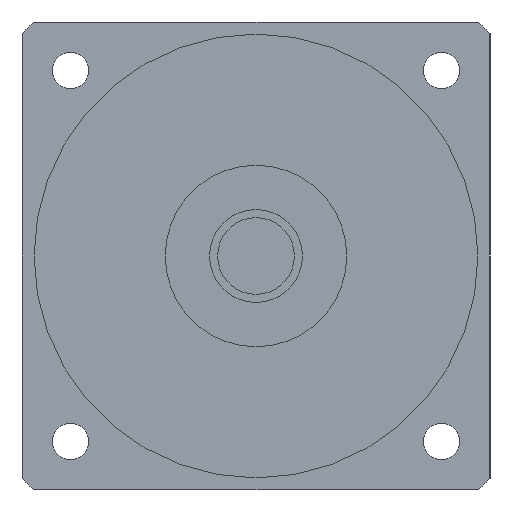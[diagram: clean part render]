
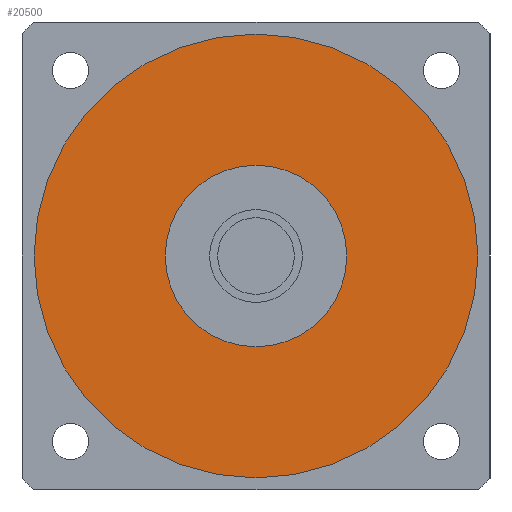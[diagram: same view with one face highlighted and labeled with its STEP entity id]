
A CAD part, left-side view. The second image highlights one B-rep face of the part: STEP entity #20500.
In plain terms, the highlighted planar face has unit normal (-1, 0, 0) as drawn and (0, 0, -1) by its records, which use the part's own axes.
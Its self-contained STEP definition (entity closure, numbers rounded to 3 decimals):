
#19920=CARTESIAN_POINT('',(55.,0.,-38.5));
#19930=VERTEX_POINT('',#19920);
#20020=CARTESIAN_POINT('',(-55.,0.,-38.5));
#20030=VERTEX_POINT('',#20020);
#20060=CARTESIAN_POINT('',(0.,0.,
-38.5));
#20070=DIRECTION('',(0.,0.,1.));
#20080=DIRECTION('',(0.,1.,0.));
#20090=AXIS2_PLACEMENT_3D('',#20060,#20070,#20080);
#20100=CIRCLE('',#20090,55.);
#20110=CARTESIAN_POINT('',(0.,55.,-38.5));
#20120=VERTEX_POINT('',#20110);
#20130=EDGE_CURVE('',#20120,#20030,#20100,.T.);
#20150=EDGE_CURVE('',#19930,#20120,#20100,.T.);
#20200=CARTESIAN_POINT('',(0.,0.,
-38.5));
#20210=DIRECTION('',(0.,0.,1.));
#20220=DIRECTION('',(-1.,0.,0.));
#20230=AXIS2_PLACEMENT_3D('',#20200,#20210,#20220);
#20240=PLANE('',#20230);
#20250=ORIENTED_EDGE('',*,*,#20130,.F.);
#20260=EDGE_CURVE('',#20030,#19930,#20100,.T.);
#20270=ORIENTED_EDGE('',*,*,#20260,.F.);
#20280=ORIENTED_EDGE('',*,*,#20150,.F.);
#20290=EDGE_LOOP('',(#20280,#20270,#20250));
#20300=FACE_OUTER_BOUND('',#20290,.T.);
#20310=CARTESIAN_POINT('',(0.,0.,
-38.5));
#20320=DIRECTION('',(0.,0.,1.));
#20330=DIRECTION('',(0.,1.,0.));
#20340=AXIS2_PLACEMENT_3D('',#20310,#20320,#20330);
#20350=CIRCLE('',#20340,22.5);
#20360=CARTESIAN_POINT('',(-22.5,0.,-38.5));
#20370=VERTEX_POINT('',#20360);
#20380=CARTESIAN_POINT('',(22.5,0.,-38.5));
#20390=VERTEX_POINT('',#20380);
#20400=EDGE_CURVE('',#20370,#20390,#20350,.T.);
#20410=ORIENTED_EDGE('',*,*,#20400,.T.);
#20420=CARTESIAN_POINT('',(0.,22.5,-38.5));
#20430=VERTEX_POINT('',#20420);
#20440=EDGE_CURVE('',#20430,#20370,#20350,.T.);
#20450=ORIENTED_EDGE('',*,*,#20440,.T.);
#20460=EDGE_CURVE('',#20390,#20430,#20350,.T.);
#20470=ORIENTED_EDGE('',*,*,#20460,.T.);
#20480=EDGE_LOOP('',(#20470,#20450,#20410));
#20490=FACE_BOUND('',#20480,.T.);
#20500=ADVANCED_FACE('',(#20300,#20490),#20240,.F.);
